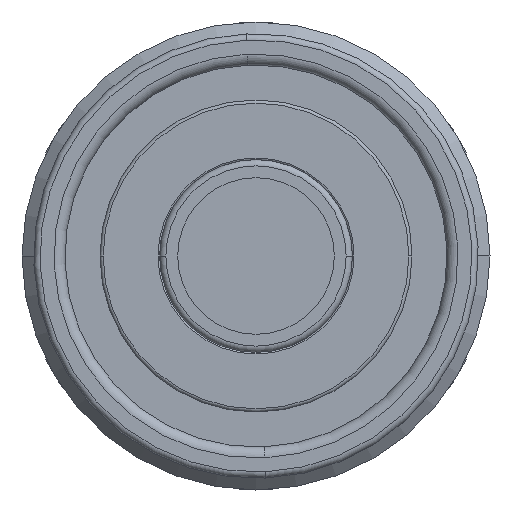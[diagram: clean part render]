
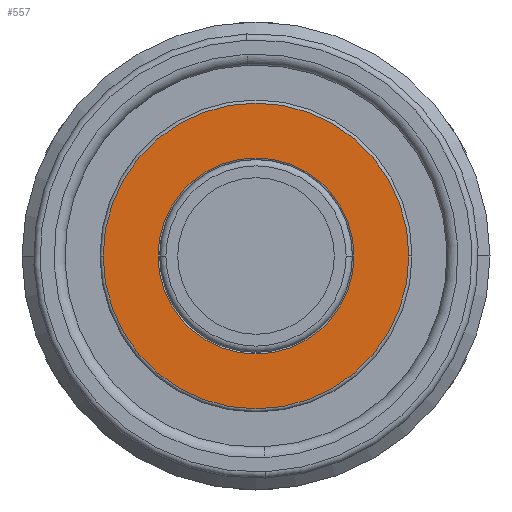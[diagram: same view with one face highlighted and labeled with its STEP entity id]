
A CAD part, front view. The second image highlights one B-rep face of the part: STEP entity #557.
In plain terms, the highlighted planar face has unit normal (0, -1, 0).
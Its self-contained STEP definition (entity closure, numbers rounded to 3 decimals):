
#225=PLANE('',#2269);
#259=FACE_BOUND('',#841,.T.);
#260=FACE_BOUND('',#842,.T.);
#557=ADVANCED_FACE('',(#259,#260),#225,.F.);
#841=EDGE_LOOP('',(#1283,#1284));
#842=EDGE_LOOP('',(#1285,#1286));
#1283=ORIENTED_EDGE('',*,*,#1824,.T.);
#1284=ORIENTED_EDGE('',*,*,#1799,.T.);
#1285=ORIENTED_EDGE('',*,*,#1808,.T.);
#1286=ORIENTED_EDGE('',*,*,#1825,.T.);
#1564=VERTEX_POINT('',#3674);
#1565=VERTEX_POINT('',#3675);
#1572=VERTEX_POINT('',#3692);
#1573=VERTEX_POINT('',#3694);
#1799=EDGE_CURVE('',#1564,#1565,#1993,.T.);
#1808=EDGE_CURVE('',#1573,#1572,#2002,.T.);
#1824=EDGE_CURVE('',#1565,#1564,#2012,.T.);
#1825=EDGE_CURVE('',#1572,#1573,#2013,.T.);
#1993=CIRCLE('',#2238,9.8);
#2002=CIRCLE('',#2249,6.28);
#2012=CIRCLE('',#2267,9.8);
#2013=CIRCLE('',#2268,6.28);
#2238=AXIS2_PLACEMENT_3D('',#3673,#2798,#2799);
#2249=AXIS2_PLACEMENT_3D('',#3693,#2820,#2821);
#2267=AXIS2_PLACEMENT_3D('',#3724,#2862,#2863);
#2268=AXIS2_PLACEMENT_3D('',#3725,#2864,#2865);
#2269=AXIS2_PLACEMENT_3D('',#3726,#2866,#2867);
#2798=DIRECTION('',(0.,-1.,0.));
#2799=DIRECTION('',(-1.,0.,0.));
#2820=DIRECTION('',(0.,1.,0.));
#2821=DIRECTION('',(-1.,0.,0.));
#2862=DIRECTION('',(0.,-1.,0.));
#2863=DIRECTION('',(-1.,0.,0.));
#2864=DIRECTION('',(0.,1.,0.));
#2865=DIRECTION('',(-1.,0.,0.));
#2866=DIRECTION('',(0.,1.,0.));
#2867=DIRECTION('',(1.,0.,0.));
#3673=CARTESIAN_POINT('',(0.,18.5,0.));
#3674=CARTESIAN_POINT('',(9.8,18.5,0.));
#3675=CARTESIAN_POINT('',(-9.8,18.5,0.));
#3692=CARTESIAN_POINT('',(6.28,18.5,0.));
#3693=CARTESIAN_POINT('',(0.,18.5,0.));
#3694=CARTESIAN_POINT('',(-6.28,18.5,0.));
#3724=CARTESIAN_POINT('',(0.,18.5,0.));
#3725=CARTESIAN_POINT('',(0.,18.5,0.));
#3726=CARTESIAN_POINT('',(0.,18.5,0.));
